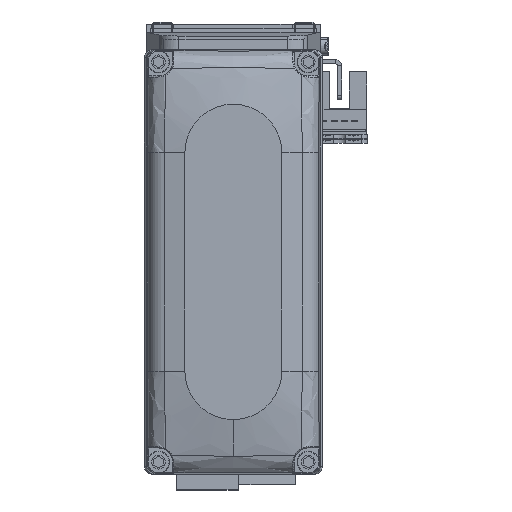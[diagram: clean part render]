
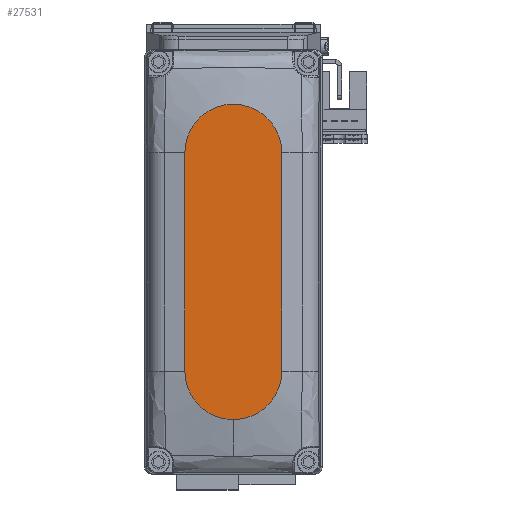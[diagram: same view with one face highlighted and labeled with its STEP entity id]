
A CAD part, top view. The second image highlights one B-rep face of the part: STEP entity #27531.
In plain terms, the highlighted planar face has unit normal (0, 0, 1).
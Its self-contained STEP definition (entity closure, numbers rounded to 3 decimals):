
#521 = DIRECTION ( 'NONE',  ( 1., 0., 0. ) ) ;
#858 = ORIENTED_EDGE ( 'NONE', *, *, #32681, .T. ) ;
#3554 = PLANE ( 'NONE',  #11493 ) ;
#4163 = LINE ( 'NONE', #13538, #9996 ) ;
#4225 = CARTESIAN_POINT ( 'NONE',  ( -27., 0., 25. ) ) ;
#6300 = AXIS2_PLACEMENT_3D ( 'NONE', #35234, #7390, #19794 ) ;
#6522 = DIRECTION ( 'NONE',  ( 1., 0., 0. ) ) ;
#7390 = DIRECTION ( 'NONE',  ( 0., 0., 1. ) ) ;
#7868 = CARTESIAN_POINT ( 'NONE',  ( 27., -12., 25. ) ) ;
#7997 = EDGE_CURVE ( 'NONE', #17501, #19243, #37219, .T. ) ;
#9391 = CARTESIAN_POINT ( 'NONE',  ( -27., 12., 25. ) ) ;
#9996 = VECTOR ( 'NONE', #25924, 1000. ) ;
#10925 = CIRCLE ( 'NONE', #33629, 12. ) ;
#11493 = AXIS2_PLACEMENT_3D ( 'NONE', #15961, #28358, #521 ) ;
#12986 = EDGE_LOOP ( 'NONE', ( #32753, #20232, #30626, #13018, #858 ) ) ;
#13018 = ORIENTED_EDGE ( 'NONE', *, *, #28913, .T. ) ;
#13267 = EDGE_CURVE ( 'NONE', #19243, #35914, #34028, .T. ) ;
#13538 = CARTESIAN_POINT ( 'NONE',  ( -27., -12., 25. ) ) ;
#14917 = EDGE_CURVE ( 'NONE', #35914, #25490, #4163, .T. ) ;
#15437 = CARTESIAN_POINT ( 'NONE',  ( -27., 12., 25. ) ) ;
#15961 = CARTESIAN_POINT ( 'NONE',  ( 0., 0., 25. ) ) ;
#16511 = AXIS2_PLACEMENT_3D ( 'NONE', #4225, #16635, #29043 ) ;
#16635 = DIRECTION ( 'NONE',  ( 0., 0., 1. ) ) ;
#17061 = VERTEX_POINT ( 'NONE', #26584 ) ;
#17501 = VERTEX_POINT ( 'NONE', #26329 ) ;
#19243 = VERTEX_POINT ( 'NONE', #15437 ) ;
#19794 = DIRECTION ( 'NONE',  ( 1., 0., 0. ) ) ;
#20232 = ORIENTED_EDGE ( 'NONE', *, *, #13267, .T. ) ;
#21801 = DIRECTION ( 'NONE',  ( -1., 0., 0. ) ) ;
#21964 = CARTESIAN_POINT ( 'NONE',  ( 27., 0., 25. ) ) ;
#23823 = CIRCLE ( 'NONE', #6300, 12. ) ;
#25490 = VERTEX_POINT ( 'NONE', #7868 ) ;
#25924 = DIRECTION ( 'NONE',  ( 1., 0., 0. ) ) ;
#26329 = CARTESIAN_POINT ( 'NONE',  ( 27., 12., 25. ) ) ;
#26584 = CARTESIAN_POINT ( 'NONE',  ( 39., 0., 25. ) ) ;
#27531 = ADVANCED_FACE ( 'NONE', ( #31393 ), #3554, .T. ) ;
#28358 = DIRECTION ( 'NONE',  ( 0., 0., 1. ) ) ;
#28913 = EDGE_CURVE ( 'NONE', #25490, #17061, #23823, .T. ) ;
#29043 = DIRECTION ( 'NONE',  ( 1., 0., 0. ) ) ;
#30626 = ORIENTED_EDGE ( 'NONE', *, *, #14917, .T. ) ;
#31393 = FACE_OUTER_BOUND ( 'NONE', #12986, .T. ) ;
#31869 = CARTESIAN_POINT ( 'NONE',  ( -27., -12., 25. ) ) ;
#32681 = EDGE_CURVE ( 'NONE', #17061, #17501, #10925, .T. ) ;
#32753 = ORIENTED_EDGE ( 'NONE', *, *, #7997, .T. ) ;
#33629 = AXIS2_PLACEMENT_3D ( 'NONE', #21964, #34352, #6522 ) ;
#34028 = CIRCLE ( 'NONE', #16511, 12. ) ;
#34352 = DIRECTION ( 'NONE',  ( 0., 0., 1. ) ) ;
#35234 = CARTESIAN_POINT ( 'NONE',  ( 27., 0., 25. ) ) ;
#35914 = VERTEX_POINT ( 'NONE', #31869 ) ;
#36547 = VECTOR ( 'NONE', #21801, 1000. ) ;
#37219 = LINE ( 'NONE', #9391, #36547 ) ;
